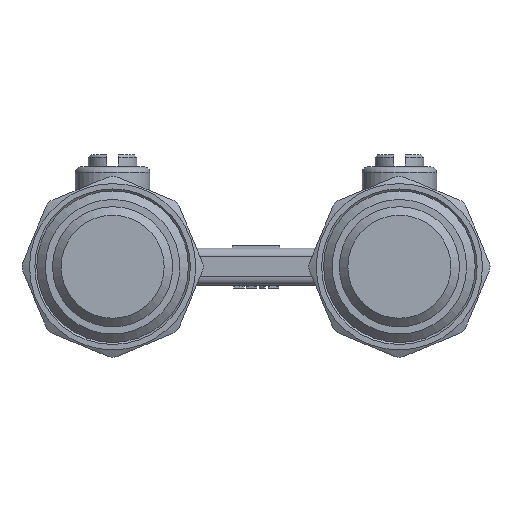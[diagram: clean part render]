
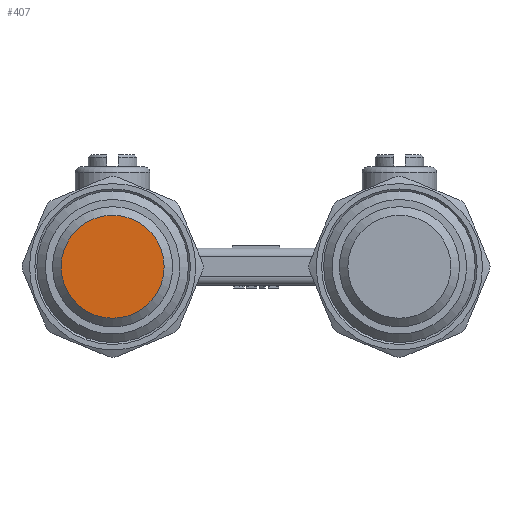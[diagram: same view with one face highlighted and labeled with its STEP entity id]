
A CAD part, left-side view. The second image highlights one B-rep face of the part: STEP entity #407.
In plain terms, the highlighted planar face has unit normal (-1, 0, 0).
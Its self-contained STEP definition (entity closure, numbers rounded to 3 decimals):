
#407=ADVANCED_FACE('',(#3002),#3004,.T.);
#3002=FACE_BOUND('',#3003,.T.);
#3003=EDGE_LOOP('',(#5194));
#3004=PLANE('',#3005);
#3005=AXIS2_PLACEMENT_3D('',#3006,#3007,#3008);
#3006=CARTESIAN_POINT('',(-40.146,50.,0.));
#3007=DIRECTION('',(-1.,0.,0.));
#3008=DIRECTION('',(0.,-1.,0.));
#5194=ORIENTED_EDGE('',*,*,#6360,.T.);
#6360=EDGE_CURVE('',#7972,#7972,#7973,.T.);
#7972=VERTEX_POINT('',#14317);
#7973=CIRCLE('',#14318,8.978);
#14317=CARTESIAN_POINT('',(-40.146,41.023,0.));
#14318=AXIS2_PLACEMENT_3D('',#14319,#14320,#14321);
#14319=CARTESIAN_POINT('',(-40.146,50.,0.));
#14320=DIRECTION('',(-1.,0.,0.));
#14321=DIRECTION('',(0.,-1.,0.));
